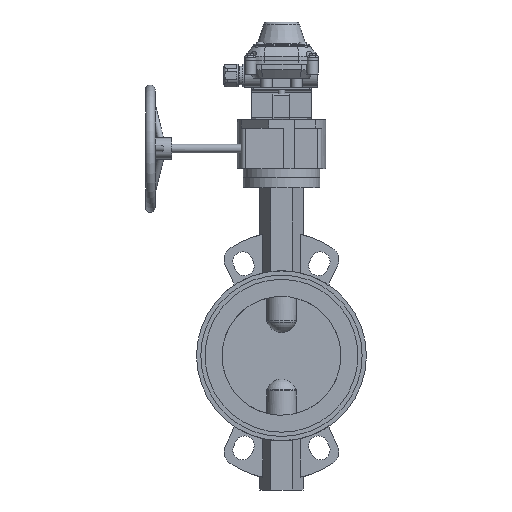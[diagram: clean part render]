
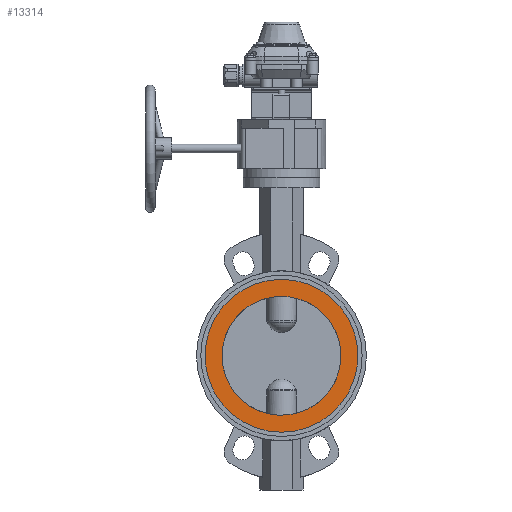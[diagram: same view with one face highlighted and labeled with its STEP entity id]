
A CAD part, left-side view. The second image highlights one B-rep face of the part: STEP entity #13314.
In plain terms, the highlighted planar face has unit normal (-1, 0, 0).
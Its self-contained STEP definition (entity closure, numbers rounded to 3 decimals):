
#13314=ADVANCED_FACE('',(#24357,#24359),#24361,.T.);
#24357=FACE_BOUND('',#24358,.T.);
#24358=EDGE_LOOP('',(#33044,#33045));
#24359=FACE_BOUND('',#24360,.T.);
#24360=EDGE_LOOP('',(#33046,#33047));
#24361=PLANE('',#24362);
#24362=AXIS2_PLACEMENT_3D('',#24363,#24364,#24365);
#24363=CARTESIAN_POINT('',(-849.908,-697.932,12.019));
#24364=DIRECTION('',(-1.,0.,0.));
#24365=DIRECTION('',(0.,1.,0.));
#33044=ORIENTED_EDGE('',*,*,#37464,.F.);
#33045=ORIENTED_EDGE('',*,*,#37465,.F.);
#33046=ORIENTED_EDGE('',*,*,#37257,.T.);
#33047=ORIENTED_EDGE('',*,*,#37256,.T.);
#37256=EDGE_CURVE('',#44199,#44200,#44201,.T.);
#37257=EDGE_CURVE('',#44200,#44199,#44202,.T.);
#37464=EDGE_CURVE('',#44553,#44554,#44555,.T.);
#37465=EDGE_CURVE('',#44554,#44553,#44556,.T.);
#44199=VERTEX_POINT('',#69212);
#44200=VERTEX_POINT('',#69213);
#44201=CIRCLE('',#69214,70.);
#44202=CIRCLE('',#69218,70.);
#44553=VERTEX_POINT('',#71191);
#44554=VERTEX_POINT('',#71192);
#44555=CIRCLE('',#71193,90.);
#44556=CIRCLE('',#71197,90.);
#69212=CARTESIAN_POINT('',(-849.908,-706.619,-137.439));
#69213=CARTESIAN_POINT('',(-849.908,-697.932,2.019));
#69214=AXIS2_PLACEMENT_3D('',#69215,#69216,#69217);
#69215=CARTESIAN_POINT('',(-849.908,-697.932,-67.981));
#69216=DIRECTION('',(1.,0.,0.));
#69217=DIRECTION('',(0.,-0.124,-0.992));
#69218=AXIS2_PLACEMENT_3D('',#69219,#69220,#69221);
#69219=CARTESIAN_POINT('',(-849.908,-697.932,-67.981));
#69220=DIRECTION('',(1.,0.,0.));
#69221=DIRECTION('',(0.,0.,1.));
#71191=CARTESIAN_POINT('',(-849.908,-697.932,-157.981));
#71192=CARTESIAN_POINT('',(-849.908,-697.932,22.019));
#71193=AXIS2_PLACEMENT_3D('',#71194,#71195,#71196);
#71194=CARTESIAN_POINT('',(-849.908,-697.932,-67.981));
#71195=DIRECTION('',(1.,0.,0.));
#71196=DIRECTION('',(0.,0.,-1.));
#71197=AXIS2_PLACEMENT_3D('',#71198,#71199,#71200);
#71198=CARTESIAN_POINT('',(-849.908,-697.932,-67.981));
#71199=DIRECTION('',(1.,0.,0.));
#71200=DIRECTION('',(0.,0.,1.));
